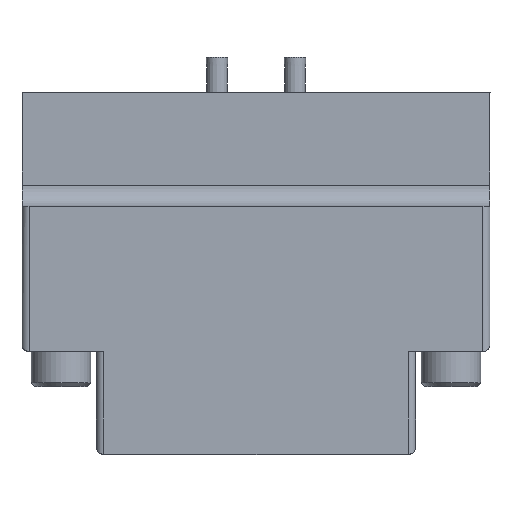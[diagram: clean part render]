
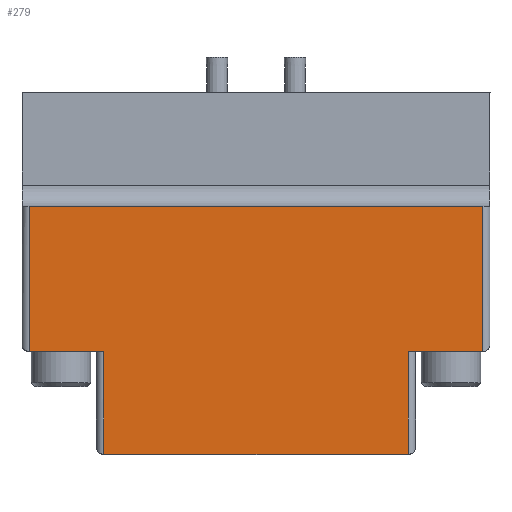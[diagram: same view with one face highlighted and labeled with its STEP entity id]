
A CAD part, top view. The second image highlights one B-rep face of the part: STEP entity #279.
In plain terms, the highlighted planar face has unit normal (0, 0, 1).
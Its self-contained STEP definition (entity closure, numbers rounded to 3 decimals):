
#279=ADVANCED_FACE('',(#694),#695,.F.);
#694=FACE_OUTER_BOUND('',#1274,.T.);
#695=PLANE('',#1275);
#1274=EDGE_LOOP('',(#2052,#2053,#2054,#2055,#2056,#2057,#2058,#2059));
#1275=AXIS2_PLACEMENT_3D('',#2060,#2061,#2062);
#2052=ORIENTED_EDGE('',*,*,#2953,.F.);
#2053=ORIENTED_EDGE('',*,*,#2947,.T.);
#2054=ORIENTED_EDGE('',*,*,#3081,.F.);
#2055=ORIENTED_EDGE('',*,*,#3065,.T.);
#2056=ORIENTED_EDGE('',*,*,#2991,.T.);
#2057=ORIENTED_EDGE('',*,*,#3082,.T.);
#2058=ORIENTED_EDGE('',*,*,#3007,.F.);
#2059=ORIENTED_EDGE('',*,*,#3083,.T.);
#2060=CARTESIAN_POINT('',(33.0,-51.0,18.5));
#2061=DIRECTION('',(0.0,0.0,-1.0));
#2062=DIRECTION('',(0.0,-1.0,0.0));
#2947=EDGE_CURVE('',#3435,#3432,#3436,.T.);
#2953=EDGE_CURVE('',#3435,#3445,#3446,.T.);
#2991=EDGE_CURVE('',#3508,#3506,#3509,.T.);
#3007=EDGE_CURVE('',#3531,#3532,#3533,.T.);
#3065=EDGE_CURVE('',#3619,#3508,#3620,.T.);
#3081=EDGE_CURVE('',#3619,#3432,#3643,.T.);
#3082=EDGE_CURVE('',#3506,#3532,#3644,.T.);
#3083=EDGE_CURVE('',#3531,#3445,#3645,.T.);
#3432=VERTEX_POINT('',#4204);
#3435=VERTEX_POINT('',#4207);
#3436=LINE('',#4208,#4209);
#3445=VERTEX_POINT('',#4219);
#3446=LINE('',#4220,#4221);
#3506=VERTEX_POINT('',#4298);
#3508=VERTEX_POINT('',#4300);
#3509=LINE('',#4301,#4302);
#3531=VERTEX_POINT('',#4329);
#3532=VERTEX_POINT('',#4330);
#3533=LINE('',#4331,#4332);
#3619=VERTEX_POINT('',#4525);
#3620=LINE('',#4526,#4527);
#3643=LINE('',#4553,#4554);
#3644=LINE('',#4555,#4556);
#3645=LINE('',#4557,#4558);
#4204=CARTESIAN_POINT('',(21.5,-36.5,18.5));
#4207=CARTESIAN_POINT('',(21.5,-51.0,18.5));
#4208=CARTESIAN_POINT('',(21.5,-36.5,18.5));
#4209=VECTOR('',#5040,1.0);
#4219=CARTESIAN_POINT('',(-21.5,-51.0,18.5));
#4220=CARTESIAN_POINT('',(33.0,-51.0,18.5));
#4221=VECTOR('',#5051,1.0);
#4298=CARTESIAN_POINT('',(-32.0,-16.0,18.5));
#4300=CARTESIAN_POINT('',(32.0,-16.0,18.5));
#4301=CARTESIAN_POINT('',(33.,-16.0,18.5));
#4302=VECTOR('',#5105,1.0);
#4329=CARTESIAN_POINT('',(-21.5,-36.5,18.5));
#4330=CARTESIAN_POINT('',(-32.0,-36.5,18.5));
#4331=CARTESIAN_POINT('',(-22.5,-36.5,18.5));
#4332=VECTOR('',#5126,1.0);
#4525=CARTESIAN_POINT('',(32.0,-36.5,18.5));
#4526=CARTESIAN_POINT('',(32.0,-51.0,18.5));
#4527=VECTOR('',#5199,1.0);
#4553=CARTESIAN_POINT('',(33.0,-36.5,18.5));
#4554=VECTOR('',#5221,1.0);
#4555=CARTESIAN_POINT('',(-32.0,-51.0,18.5));
#4556=VECTOR('',#5222,1.0);
#4557=CARTESIAN_POINT('',(-21.5,-50.0,18.5));
#4558=VECTOR('',#5223,1.0);
#5040=DIRECTION('',(0.0,1.0,0.0));
#5051=DIRECTION('',(-1.0,0.0,0.0));
#5105=DIRECTION('',(-1.0,0.0,0.0));
#5126=DIRECTION('',(-1.0,0.0,0.0));
#5199=DIRECTION('',(0.0,1.0,0.0));
#5221=DIRECTION('',(-1.0,0.0,0.0));
#5222=DIRECTION('',(0.0,-1.0,0.0));
#5223=DIRECTION('',(0.0,-1.0,0.0));
